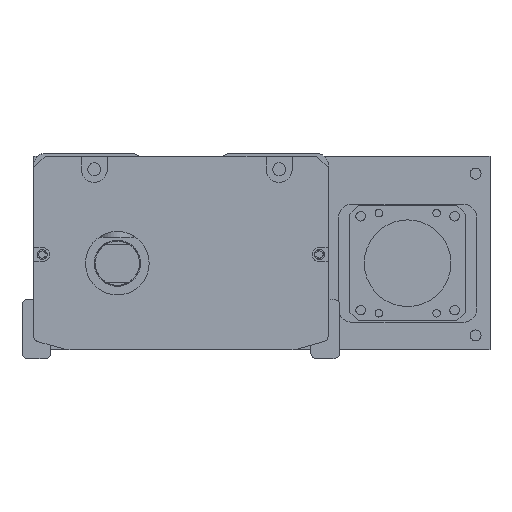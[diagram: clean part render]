
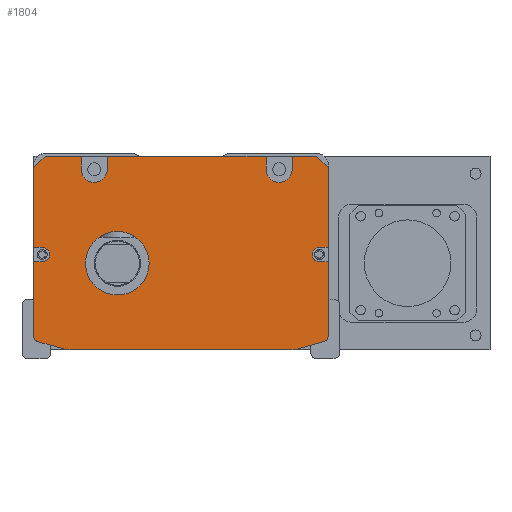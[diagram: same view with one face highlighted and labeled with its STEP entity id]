
A CAD part, front view. The second image highlights one B-rep face of the part: STEP entity #1804.
In plain terms, the highlighted planar face has unit normal (0, -1, 0).
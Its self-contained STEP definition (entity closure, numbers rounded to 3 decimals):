
#1804=ADVANCED_FACE('',(#4312,#4313),#2323,.F.);
#2323=PLANE('',#13521);
#2848=LINE('',#26198,#3639);
#2852=LINE('',#26207,#3643);
#2860=LINE('',#26234,#3651);
#2864=LINE('',#26243,#3655);
#2871=LINE('',#26259,#3662);
#2873=LINE('',#26264,#3664);
#2888=LINE('',#26307,#3679);
#2890=LINE('',#26315,#3681);
#2893=LINE('',#26319,#3684);
#2914=LINE('',#26387,#3705);
#2918=LINE('',#26396,#3709);
#2922=LINE('',#26405,#3713);
#2926=LINE('',#26414,#3717);
#2930=LINE('',#26430,#3721);
#2934=LINE('',#26436,#3725);
#2935=LINE('',#26437,#3726);
#2937=LINE('',#26453,#3728);
#2938=LINE('',#26454,#3729);
#2939=LINE('',#26455,#3730);
#2940=LINE('',#26456,#3731);
#3639=VECTOR('',#15953,1.);
#3643=VECTOR('',#15959,1.);
#3651=VECTOR('',#15981,1.);
#3655=VECTOR('',#15987,1.);
#3662=VECTOR('',#15996,1.);
#3664=VECTOR('',#16000,1.);
#3679=VECTOR('',#16039,1.);
#3681=VECTOR('',#16049,1.);
#3684=VECTOR('',#16054,1.);
#3705=VECTOR('',#16129,1.);
#3709=VECTOR('',#16135,1.);
#3713=VECTOR('',#16141,1.);
#3717=VECTOR('',#16147,1.);
#3721=VECTOR('',#16165,1.);
#3725=VECTOR('',#16169,1.);
#3726=VECTOR('',#16170,1.);
#3728=VECTOR('',#16194,1.);
#3729=VECTOR('',#16195,1.);
#3730=VECTOR('',#16196,1.);
#3731=VECTOR('',#16197,1.);
#4312=FACE_BOUND('',#5134,.T.);
#4313=FACE_BOUND('',#5135,.T.);
#5134=EDGE_LOOP('',(#7537,#7538,#7539,#7540,#7541,#7542,#7543,#7544,#7545,
#7546,#7547,#7548,#7549,#7550,#7551,#7552,#7553,#7554,#7555,#7556,#7557,
#7558,#7559,#7560,#7561,#7562,#7563,#7564));
#5135=EDGE_LOOP('',(#7565));
#7537=ORIENTED_EDGE('',*,*,#11402,.T.);
#7538=ORIENTED_EDGE('',*,*,#11279,.T.);
#7539=ORIENTED_EDGE('',*,*,#11389,.T.);
#7540=ORIENTED_EDGE('',*,*,#11306,.F.);
#7541=ORIENTED_EDGE('',*,*,#11343,.T.);
#7542=ORIENTED_EDGE('',*,*,#11308,.F.);
#7543=ORIENTED_EDGE('',*,*,#11394,.T.);
#7544=ORIENTED_EDGE('',*,*,#11295,.F.);
#7545=ORIENTED_EDGE('',*,*,#11340,.T.);
#7546=ORIENTED_EDGE('',*,*,#11299,.F.);
#7547=ORIENTED_EDGE('',*,*,#11393,.T.);
#7548=ORIENTED_EDGE('',*,*,#11283,.T.);
#7549=ORIENTED_EDGE('',*,*,#11403,.T.);
#7550=ORIENTED_EDGE('',*,*,#11373,.T.);
#7551=ORIENTED_EDGE('',*,*,#11401,.T.);
#7552=ORIENTED_EDGE('',*,*,#11369,.T.);
#7553=ORIENTED_EDGE('',*,*,#11404,.T.);
#7554=ORIENTED_EDGE('',*,*,#11326,.T.);
#7555=ORIENTED_EDGE('',*,*,#11329,.T.);
#7556=ORIENTED_EDGE('',*,*,#11332,.T.);
#7557=ORIENTED_EDGE('',*,*,#11333,.T.);
#7558=ORIENTED_EDGE('',*,*,#11289,.T.);
#7559=ORIENTED_EDGE('',*,*,#11336,.T.);
#7560=ORIENTED_EDGE('',*,*,#11291,.T.);
#7561=ORIENTED_EDGE('',*,*,#11405,.T.);
#7562=ORIENTED_EDGE('',*,*,#11381,.T.);
#7563=ORIENTED_EDGE('',*,*,#11400,.T.);
#7564=ORIENTED_EDGE('',*,*,#11377,.T.);
#7565=ORIENTED_EDGE('',*,*,#11345,.T.);
#9779=VERTEX_POINT('',#26199);
#9780=VERTEX_POINT('',#26200);
#9783=VERTEX_POINT('',#26208);
#9784=VERTEX_POINT('',#26209);
#9789=VERTEX_POINT('',#26220);
#9790=VERTEX_POINT('',#26222);
#9791=VERTEX_POINT('',#26226);
#9792=VERTEX_POINT('',#26227);
#9795=VERTEX_POINT('',#26235);
#9796=VERTEX_POINT('',#26236);
#9799=VERTEX_POINT('',#26244);
#9800=VERTEX_POINT('',#26245);
#9804=VERTEX_POINT('',#26254);
#9806=VERTEX_POINT('',#26258);
#9807=VERTEX_POINT('',#26262);
#9809=VERTEX_POINT('',#26265);
#9819=VERTEX_POINT('',#26295);
#9822=VERTEX_POINT('',#26300);
#9824=VERTEX_POINT('',#26306);
#9826=VERTEX_POINT('',#26312);
#9829=VERTEX_POINT('',#26338);
#9845=VERTEX_POINT('',#26385);
#9847=VERTEX_POINT('',#26388);
#9850=VERTEX_POINT('',#26395);
#9851=VERTEX_POINT('',#26397);
#9853=VERTEX_POINT('',#26403);
#9855=VERTEX_POINT('',#26406);
#9858=VERTEX_POINT('',#26413);
#9859=VERTEX_POINT('',#26415);
#11279=EDGE_CURVE('',#9779,#9780,#2848,.T.);
#11283=EDGE_CURVE('',#9783,#9784,#2852,.T.);
#11289=EDGE_CURVE('',#9790,#9789,#12420,.T.);
#11291=EDGE_CURVE('',#9791,#9792,#12421,.T.);
#11295=EDGE_CURVE('',#9795,#9796,#2860,.T.);
#11299=EDGE_CURVE('',#9799,#9800,#2864,.T.);
#11306=EDGE_CURVE('',#9806,#9804,#2871,.T.);
#11308=EDGE_CURVE('',#9807,#9809,#2873,.T.);
#11326=EDGE_CURVE('',#9819,#9822,#12428,.T.);
#11329=EDGE_CURVE('',#9822,#9824,#2888,.T.);
#11332=EDGE_CURVE('',#9824,#9826,#12430,.T.);
#11333=EDGE_CURVE('',#9826,#9790,#2890,.T.);
#11336=EDGE_CURVE('',#9789,#9791,#2893,.T.);
#11340=EDGE_CURVE('',#9795,#9800,#12433,.T.);
#11343=EDGE_CURVE('',#9806,#9809,#12436,.T.);
#11345=EDGE_CURVE('',#9829,#9829,#12437,.T.);
#11369=EDGE_CURVE('',#9847,#9845,#2914,.T.);
#11373=EDGE_CURVE('',#9851,#9850,#2918,.T.);
#11377=EDGE_CURVE('',#9855,#9853,#2922,.T.);
#11381=EDGE_CURVE('',#9859,#9858,#2926,.T.);
#11389=EDGE_CURVE('',#9780,#9804,#2930,.T.);
#11393=EDGE_CURVE('',#9799,#9783,#2934,.T.);
#11394=EDGE_CURVE('',#9807,#9796,#2935,.T.);
#11400=EDGE_CURVE('',#9858,#9855,#12451,.T.);
#11401=EDGE_CURVE('',#9850,#9847,#12452,.T.);
#11402=EDGE_CURVE('',#9853,#9779,#2937,.T.);
#11403=EDGE_CURVE('',#9784,#9851,#2938,.T.);
#11404=EDGE_CURVE('',#9845,#9819,#2939,.T.);
#11405=EDGE_CURVE('',#9792,#9859,#2940,.T.);
#12420=CIRCLE('',#13448,10.);
#12421=CIRCLE('',#13450,2.);
#12428=CIRCLE('',#13466,2.);
#12430=CIRCLE('',#13470,10.);
#12433=CIRCLE('',#13478,4.5);
#12436=CIRCLE('',#13483,4.5);
#12437=CIRCLE('',#13486,11.);
#12451=CIRCLE('',#13517,2.5);
#12452=CIRCLE('',#13519,2.5);
#13448=AXIS2_PLACEMENT_3D('',#26221,#15968,#15969);
#13450=AXIS2_PLACEMENT_3D('',#26225,#15973,#15974);
#13466=AXIS2_PLACEMENT_3D('',#26301,#16033,#16034);
#13470=AXIS2_PLACEMENT_3D('',#26313,#16045,#16046);
#13478=AXIS2_PLACEMENT_3D('',#26327,#16066,#16067);
#13483=AXIS2_PLACEMENT_3D('',#26333,#16076,#16077);
#13486=AXIS2_PLACEMENT_3D('',#26337,#16083,#16084);
#13517=AXIS2_PLACEMENT_3D('',#26449,#16186,#16187);
#13519=AXIS2_PLACEMENT_3D('',#26451,#16190,#16191);
#13521=AXIS2_PLACEMENT_3D('',#26457,#16198,#16199);
#15953=DIRECTION('',(-0.707,0.,0.707));
#15959=DIRECTION('',(-0.707,0.,-0.707));
#15968=DIRECTION('',(0.,-1.,0.));
#15969=DIRECTION('',(0.,0.,-1.));
#15973=DIRECTION('',(0.,-1.,0.));
#15974=DIRECTION('',(0.,0.,-1.));
#15981=DIRECTION('',(0.,0.,1.));
#15987=DIRECTION('',(0.,0.,-1.));
#15996=DIRECTION('',(0.,0.,1.));
#16000=DIRECTION('',(0.,0.,-1.));
#16033=DIRECTION('',(0.,-1.,0.));
#16034=DIRECTION('',(0.,0.,1.));
#16039=DIRECTION('',(0.963,0.,-0.269));
#16045=DIRECTION('',(0.,-1.,0.));
#16046=DIRECTION('',(0.,0.,1.));
#16049=DIRECTION('',(1.,0.,0.));
#16054=DIRECTION('',(0.963,0.,0.269));
#16066=DIRECTION('',(0.,1.,0.));
#16067=DIRECTION('',(0.,0.,1.));
#16076=DIRECTION('',(0.,1.,0.));
#16077=DIRECTION('',(0.,0.,1.));
#16083=DIRECTION('',(0.,1.,0.));
#16084=DIRECTION('',(0.,0.,1.));
#16129=DIRECTION('',(-1.,0.,0.));
#16135=DIRECTION('',(1.,0.,0.));
#16141=DIRECTION('',(1.,0.,0.));
#16147=DIRECTION('',(-1.,0.,0.));
#16165=DIRECTION('',(-1.,0.,0.));
#16169=DIRECTION('',(-1.,0.,0.));
#16170=DIRECTION('',(-1.,0.,0.));
#16186=DIRECTION('',(0.,1.,0.));
#16187=DIRECTION('',(0.,0.,1.));
#16190=DIRECTION('',(0.,1.,0.));
#16191=DIRECTION('',(0.,0.,1.));
#16194=DIRECTION('',(0.,0.,1.));
#16195=DIRECTION('',(0.,0.,-1.));
#16196=DIRECTION('',(0.,0.,-1.));
#16197=DIRECTION('',(0.,0.,1.));
#16198=DIRECTION('',(0.,1.,0.));
#16199=DIRECTION('',(-1.,0.,0.));
#26198=CARTESIAN_POINT('',(43.808,82.5,-1.));
#26199=CARTESIAN_POINT('',(47.808,82.5,-5.));
#26200=CARTESIAN_POINT('',(43.808,82.5,-1.));
#26207=CARTESIAN_POINT('',(-54.192,82.5,-5.));
#26208=CARTESIAN_POINT('',(-50.192,82.5,-1.));
#26209=CARTESIAN_POINT('',(-54.192,82.5,-5.));
#26220=CARTESIAN_POINT('',(37.424,82.5,-67.631));
#26221=CARTESIAN_POINT('',(34.733,82.5,-58.));
#26222=CARTESIAN_POINT('',(34.733,82.5,-68.));
#26225=CARTESIAN_POINT('',(45.808,82.5,-63.212));
#26226=CARTESIAN_POINT('',(46.346,82.5,-65.138));
#26227=CARTESIAN_POINT('',(47.808,82.5,-63.212));
#26234=CARTESIAN_POINT('',(-28.692,82.5,-3.5));
#26235=CARTESIAN_POINT('',(-28.692,82.5,-5.5));
#26236=CARTESIAN_POINT('',(-28.692,82.5,-1.));
#26243=CARTESIAN_POINT('',(-37.692,82.5,-1.));
#26244=CARTESIAN_POINT('',(-37.692,82.5,-1.));
#26245=CARTESIAN_POINT('',(-37.692,82.5,-5.5));
#26254=CARTESIAN_POINT('',(35.308,82.5,-1.));
#26258=CARTESIAN_POINT('',(35.308,82.5,-5.5));
#26259=CARTESIAN_POINT('',(35.308,82.5,-1.));
#26262=CARTESIAN_POINT('',(26.308,82.5,-1.));
#26264=CARTESIAN_POINT('',(26.308,82.5,-1.));
#26265=CARTESIAN_POINT('',(26.308,82.5,-5.5));
#26295=CARTESIAN_POINT('',(-54.192,82.5,-63.212));
#26300=CARTESIAN_POINT('',(-52.731,82.5,-65.138));
#26301=CARTESIAN_POINT('',(-52.192,82.5,-63.212));
#26306=CARTESIAN_POINT('',(-43.809,82.5,-67.631));
#26307=CARTESIAN_POINT('',(-55.807,82.5,-64.279));
#26312=CARTESIAN_POINT('',(-41.118,82.5,-68.));
#26313=CARTESIAN_POINT('',(-41.118,82.5,-58.));
#26315=CARTESIAN_POINT('',(-54.692,82.5,-68.));
#26319=CARTESIAN_POINT('',(49.422,82.5,-64.279));
#26327=CARTESIAN_POINT('',(-33.192,82.5,-5.5));
#26333=CARTESIAN_POINT('',(30.808,82.5,-5.5));
#26337=CARTESIAN_POINT('',(-25.192,82.5,-38.));
#26338=CARTESIAN_POINT('',(-25.192,82.5,-27.));
#26385=CARTESIAN_POINT('',(-54.192,82.5,-37.5));
#26387=CARTESIAN_POINT('',(-3.192,82.5,-37.5));
#26388=CARTESIAN_POINT('',(-51.192,82.5,-37.5));
#26395=CARTESIAN_POINT('',(-51.192,82.5,-32.5));
#26396=CARTESIAN_POINT('',(-3.192,82.5,-32.5));
#26397=CARTESIAN_POINT('',(-54.192,82.5,-32.5));
#26403=CARTESIAN_POINT('',(47.808,82.5,-32.5));
#26405=CARTESIAN_POINT('',(-3.192,82.5,-32.5));
#26406=CARTESIAN_POINT('',(44.808,82.5,-32.5));
#26413=CARTESIAN_POINT('',(44.808,82.5,-37.5));
#26414=CARTESIAN_POINT('',(-3.192,82.5,-37.5));
#26415=CARTESIAN_POINT('',(47.808,82.5,-37.5));
#26430=CARTESIAN_POINT('',(-3.192,82.5,-1.));
#26436=CARTESIAN_POINT('',(-54.192,82.5,-1.));
#26437=CARTESIAN_POINT('',(-54.192,82.5,-1.));
#26449=CARTESIAN_POINT('',(44.808,82.5,-35.));
#26451=CARTESIAN_POINT('',(-51.192,82.5,-35.));
#26453=CARTESIAN_POINT('',(47.808,82.5,-1.));
#26454=CARTESIAN_POINT('',(-54.192,82.5,-62.));
#26455=CARTESIAN_POINT('',(-54.192,82.5,-62.));
#26456=CARTESIAN_POINT('',(47.808,82.5,-1.));
#26457=CARTESIAN_POINT('',(-3.192,82.5,-1.));
